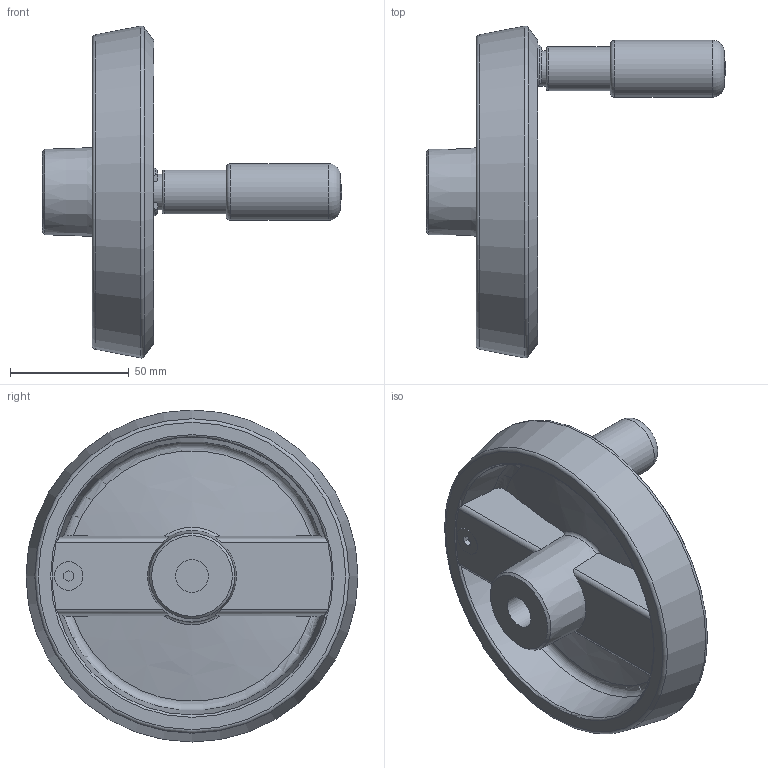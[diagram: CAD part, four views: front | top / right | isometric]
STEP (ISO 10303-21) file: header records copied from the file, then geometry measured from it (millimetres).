
FILE_DESCRIPTION( ( 'STEP AP203' ), '1' );
FILE_NAME( 'C:/Temp/Ganter_Step_05_03_2020/data/1_3/gn_923_7/gn_923_7_b/Handwheel with retractable handle GN 923.7-140-B14-R-SR (activated).stp', '2020-03-05T10:40:01', ( 'License CC BY-ND 4.0' ), ( 'CADENAS' ), ' ', 'PARTsolutions', ' ' );
FILE_SCHEMA( ( 'CONFIG_CONTROL_DESIGN' ) );
Length unit declared in the file: millimetre
Products named in the file (3): Handwheel with retractable handle GN 923.7-140-B14-R-SR (activated); _Umleggriff-Handrad GN 923.7-140-B14-R-SR-1; _Umleggriff-Handrad GN 923.7-140-B14-R-SR (90)-2
Assembly tree (2 placements, depth 2):
  Handwheel with retractable handle GN 923.7-140-B14-R-SR (activated)
    _Umleggriff-Handrad GN 923.7-140-B14-R-SR-1
    _Umleggriff-Handrad GN 923.7-140-B14-R-SR (90)-2
Bounding box: 126.2 x 140 x 140 mm (x, y, z)
Volume: 219718.7 mm3; surface area: 65751 mm2
Topology: 2 solids, 2 shells, 113 faces, 275 edges, 174 vertices
Faces by surface type: plane 47, cylinder 28, torus 15, cone 14, bspline 7, sphere 2
Full cylindrical faces by diameter (mm): 4 x2, 5 x1, 8 x1, 12 x1, 14 x1, 15 x1, 18.5 x1, 20 x1, 23 x2, 24 x1
Entity records: 3742 total; most frequent: CARTESIAN_POINT 1188, DIRECTION 503, ORIENTED_EDGE 480, EDGE_CURVE 240, AXIS2_PLACEMENT_3D 215, VERTEX_POINT 168, EDGE_LOOP 151, FACE_OUTER_BOUND 132
